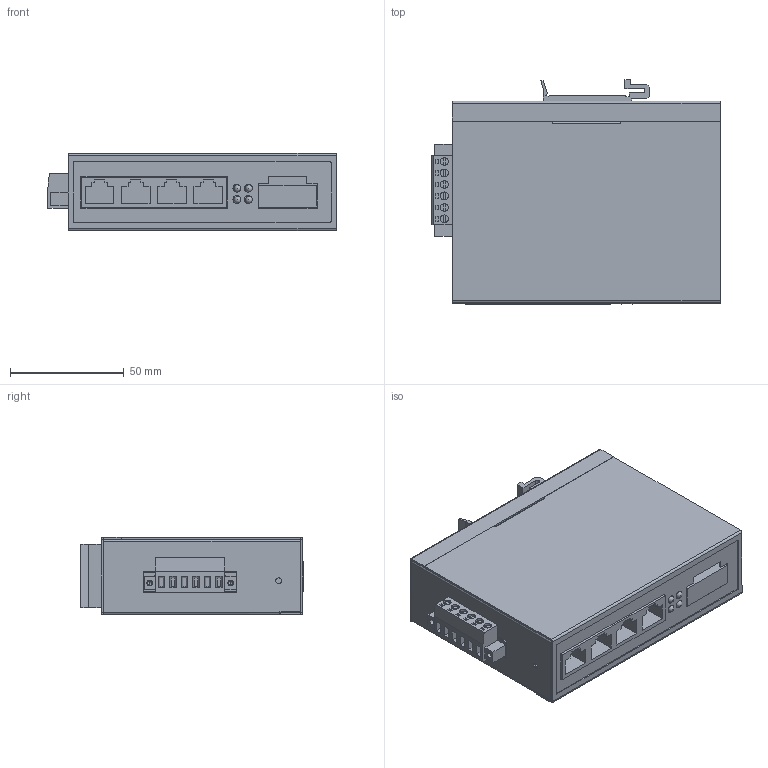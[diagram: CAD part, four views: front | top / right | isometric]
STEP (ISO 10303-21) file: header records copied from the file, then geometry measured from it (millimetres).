
FILE_DESCRIPTION (( 'STEP AP214' ), '1' );
FILE_NAME ('1¹â4µç3D.STEP', '2023-11-17T07:57:08', ( '' ), ( '' ), 'SwSTEP 2.0', 'SolidWorks 2018', '' );
FILE_SCHEMA (( 'AUTOMOTIVE_DESIGN' ));
Length unit declared in the file: millimetre
Products named in the file (7): 珨嫖侐萇奻裔; 25絳寢; 6P俋諉傷赽; 珨嫖侐萇翋啣; 1嫖4萇菁褲; M3H8.5ѹí; 1嫖4萇3D
Assembly tree (9 placements, depth 2):
  1嫖4萇3D
    1嫖4萇菁褲
    珨嫖侐萇奻裔
    M3H8.5ѹí  x4
    25絳寢
    珨嫖侐萇翋啣
    6P俋諉傷赽
Bounding box: 126.7 x 98.45 x 34 mm (x, y, z)
Volume: 70917.2 mm3; surface area: 106578 mm2
Topology: 13 solids, 13 shells, 674 faces, 1652 edges, 1034 vertices
Faces by surface type: plane 477, cylinder 161, cone 24, torus 8, sphere 4
Entity records: 21057 total; most frequent: DIRECTION 3134, CARTESIAN_POINT 3112, ORIENTED_EDGE 3040, EDGE_CURVE 1520, VECTOR 1176, LINE 1176, AXIS2_PLACEMENT_3D 979, VERTEX_POINT 957
